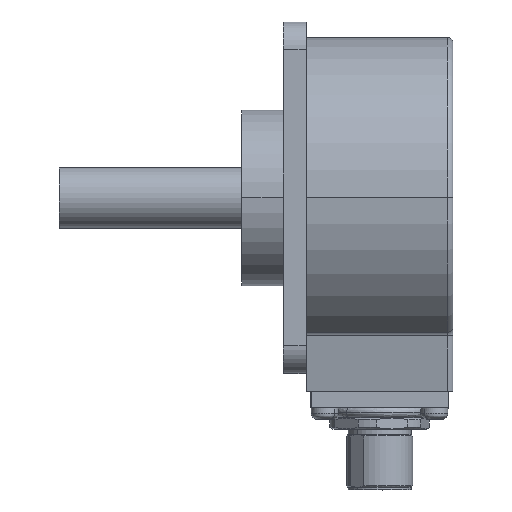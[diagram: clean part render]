
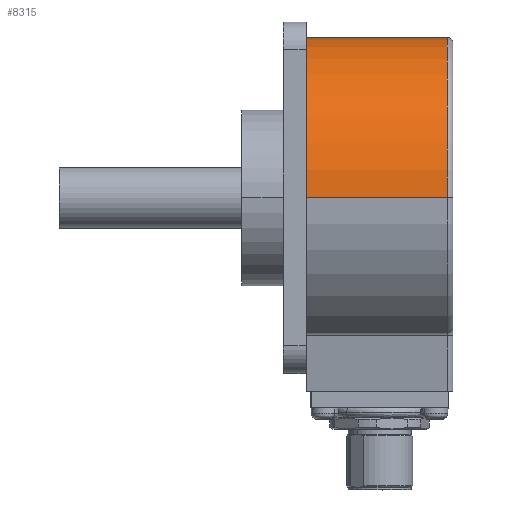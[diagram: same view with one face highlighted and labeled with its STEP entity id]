
A CAD part, top view. The second image highlights one B-rep face of the part: STEP entity #8315.
In plain terms, the highlighted cylindrical face has radius 29 mm (diameter 58 mm), a partial arc.
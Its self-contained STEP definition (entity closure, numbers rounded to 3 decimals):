
#236 = CARTESIAN_POINT ( 'NONE',  ( 8.068, 25.423, -29. ) ) ;
#622 = ORIENTED_EDGE ( 'NONE', *, *, #8799, .F. ) ;
#1169 = VERTEX_POINT ( 'NONE', #10569 ) ;
#2114 = DIRECTION ( 'NONE',  ( 0., 0., -1. ) ) ;
#2142 = ORIENTED_EDGE ( 'NONE', *, *, #4018, .T. ) ;
#2165 = CARTESIAN_POINT ( 'NONE',  ( 33.568, 25.423, 0. ) ) ;
#2339 = VECTOR ( 'NONE', #2944, 1000. ) ;
#2944 = DIRECTION ( 'NONE',  ( -1., 0., 0. ) ) ;
#3968 = DIRECTION ( 'NONE',  ( 0., 0., -1. ) ) ;
#4018 = EDGE_CURVE ( 'NONE', #9390, #1169, #4706, .T. ) ;
#4112 = CIRCLE ( 'NONE', #8497, 29. ) ;
#4195 = CARTESIAN_POINT ( 'NONE',  ( 8.068, 25.423, 29. ) ) ;
#4282 = ORIENTED_EDGE ( 'NONE', *, *, #5026, .F. ) ;
#4436 = LINE ( 'NONE', #8083, #8527 ) ;
#4706 = LINE ( 'NONE', #236, #2339 ) ;
#4771 = DIRECTION ( 'NONE',  ( -1., 0., 0. ) ) ;
#4878 = DIRECTION ( 'NONE',  ( -1., 0., 0. ) ) ;
#5026 = EDGE_CURVE ( 'NONE', #5910, #1169, #7510, .T. ) ;
#5104 = ORIENTED_EDGE ( 'NONE', *, *, #5598, .T. ) ;
#5598 = EDGE_CURVE ( 'NONE', #11001, #9390, #4112, .T. ) ;
#5761 = FACE_OUTER_BOUND ( 'NONE', #9578, .T. ) ;
#5910 = VERTEX_POINT ( 'NONE', #4195 ) ;
#6593 = CARTESIAN_POINT ( 'NONE',  ( 8.068, 25.423, 0. ) ) ;
#7449 = CARTESIAN_POINT ( 'NONE',  ( 8.068, 25.423, 0. ) ) ;
#7510 = CIRCLE ( 'NONE', #8101, 29. ) ;
#7615 = DIRECTION ( 'NONE',  ( -1., 0., 0. ) ) ;
#8083 = CARTESIAN_POINT ( 'NONE',  ( 8.068, 25.423, 29. ) ) ;
#8101 = AXIS2_PLACEMENT_3D ( 'NONE', #6593, #4878, #2114 ) ;
#8302 = CARTESIAN_POINT ( 'NONE',  ( 33.568, 25.423, 29. ) ) ;
#8315 = ADVANCED_FACE ( 'NONE', ( #5761 ), #8386, .T. ) ;
#8386 = CYLINDRICAL_SURFACE ( 'NONE', #10899, 29. ) ;
#8497 = AXIS2_PLACEMENT_3D ( 'NONE', #2165, #7615, #3968 ) ;
#8527 = VECTOR ( 'NONE', #11596, 1000. ) ;
#8799 = EDGE_CURVE ( 'NONE', #11001, #5910, #4436, .T. ) ;
#9353 = DIRECTION ( 'NONE',  ( 0., 0., -1. ) ) ;
#9390 = VERTEX_POINT ( 'NONE', #11623 ) ;
#9578 = EDGE_LOOP ( 'NONE', ( #622, #5104, #2142, #4282 ) ) ;
#10569 = CARTESIAN_POINT ( 'NONE',  ( 8.068, 25.423, -29. ) ) ;
#10899 = AXIS2_PLACEMENT_3D ( 'NONE', #7449, #4771, #9353 ) ;
#11001 = VERTEX_POINT ( 'NONE', #8302 ) ;
#11596 = DIRECTION ( 'NONE',  ( -1., 0., 0. ) ) ;
#11623 = CARTESIAN_POINT ( 'NONE',  ( 33.568, 25.423, -29. ) ) ;
